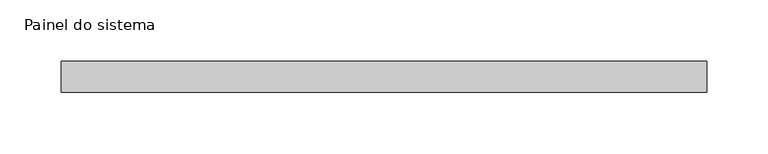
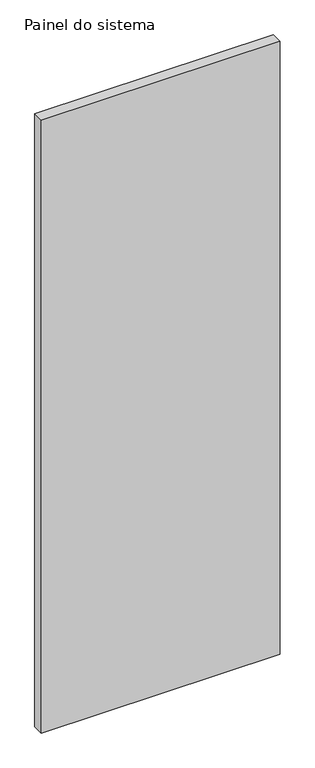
"""IFC4 building model written with IfcOpenShell, lengths in millimetres: plate geometry, Painel do sistema : Envidraçado."""

from ifc_helpers import new_model, si_unit, origin, origin_with_axes, place, context, project, spatial, polyline, outline, extrude, source, transform, mapped, element, save


def painel_do_sistema_2cd2b5a0(model_context):
    return source(origin(), model_context, "Body", "SweptSolid", [
        extrude(outline(polyline([(262.5, 24.5), (-262.5, 24.5), (-262.5, 49.5), (262.5, 49.5), (262.5, 24.5)])), origin_with_axes(), (0.0, 0.0, 1.0), 1425.0),
    ])


if __name__ == "__main__":
    model = new_model("IFC4")
    model_context = context("Model", 3, world=origin())
    ifc_project = project(units=[si_unit("LENGTHUNIT", "METRE", prefix="MILLI")], contexts=[model_context])
    site = spatial("IfcSite", under=ifc_project)
    building = spatial("IfcBuilding", under=site)
    placement = place(None, origin())
    painel_do_sistema_shape = painel_do_sistema_2cd2b5a0(model_context)
    element("IfcPlate", 1, ObjectType="Painel do sistema : Envidraçado", at=placement, inside=building, context=model_context, shape_type="MappedRepresentation", body=[
        mapped(painel_do_sistema_shape, transform((0.0, 0.0, 0.0), x_axis=(1.0, 0.0, 0.0), y_axis=(0.0, 1.0, 0.0), z_axis=(0.0, 0.0, 1.0))),
    ])
    save(model, "model.ifc")
